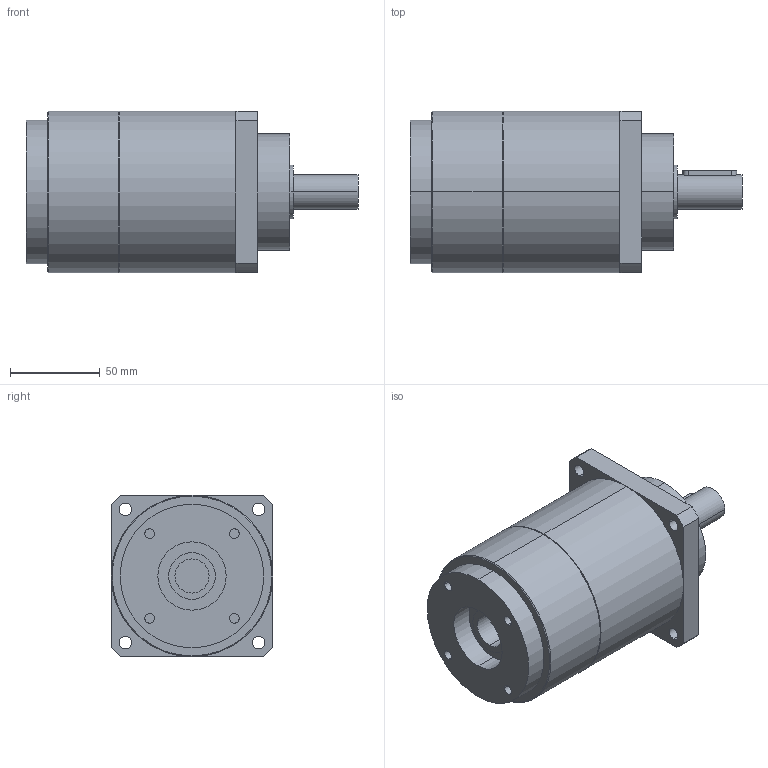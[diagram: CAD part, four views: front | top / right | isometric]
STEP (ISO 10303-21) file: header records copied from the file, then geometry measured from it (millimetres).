
FILE_DESCRIPTION(('CoCreate Modeling STEP Export'),'2;1');
FILE_NAME('GPT90_ig-9-12-16-20-25-28-35-40-50-70-100_19_B5T_19_P01.stp','2015-02-04T11:32:47',(''),(''),'CoCreate Modeling STEP processor for AP214 (Solid Model)','CoCreate Modeling 16.00C 25-Feb-2009 (C) Parametric Technology GmbH','');
FILE_SCHEMA(('AUTOMOTIVE_DESIGN { 1 0 10303 214 1 1 1 1 }'));
Length unit declared in the file: millimetre
Products named in the file (2): GPT90_ig-9-12-16-20-25-28-35-40-50-70-100_19_B5T_19_P01
Assembly tree (1 placements, depth 2):
  GPT90_ig-9-12-16-20-25-28-35-40-50-70-100_19_B5T_19_P01
    GPT90_ig-9-12-16-20-25-28-35-40-50-70-100_19_B5T_19_P01
Bounding box: 185 x 90 x 90 mm (x, y, z)
Volume: 871135.5 mm3; surface area: 64935.8 mm2
Topology: 1 solids, 1 shells, 72 faces, 182 edges, 125 vertices
Faces by surface type: cylinder 42, plane 26, cone 4
Entity records: 2313 total; most frequent: CARTESIAN_POINT 692, ORIENTED_EDGE 364, DIRECTION 272, EDGE_CURVE 182, VERTEX_POINT 125, AXIS2_PLACEMENT_3D 102, EDGE_LOOP 93, FACE_OUTER_BOUND 72
